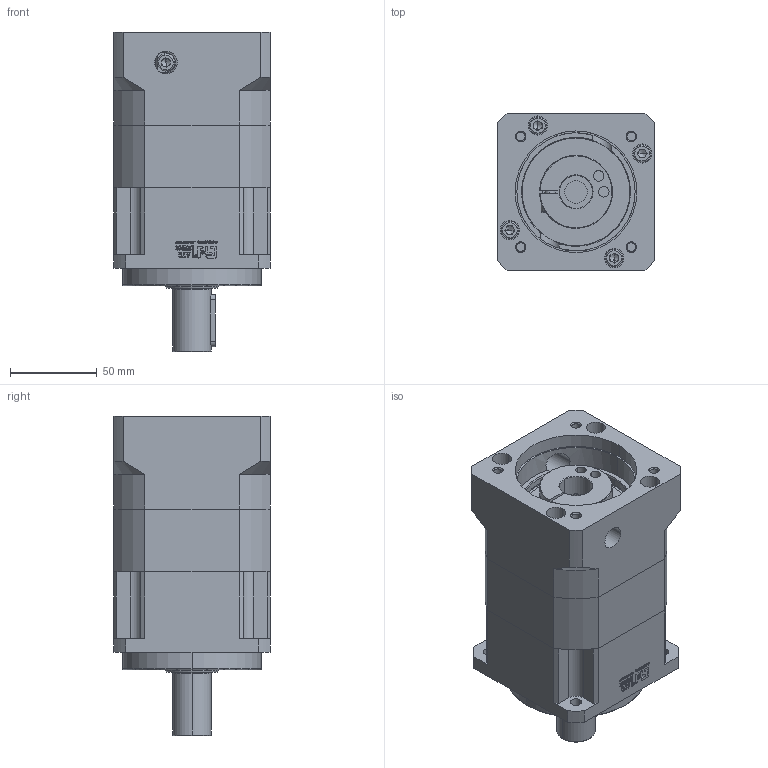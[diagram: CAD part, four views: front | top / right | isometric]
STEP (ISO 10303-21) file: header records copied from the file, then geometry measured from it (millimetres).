
FILE_DESCRIPTION (( 'STEP AP214' ), '1' );
FILE_NAME ('PGH090-L2-[ ]-P2 19-70-90-M6 bzsc22.STEP', '2024-05-29T06:17:44', ( '' ), ( '' ), 'SwSTEP 2.0', 'SolidWorks 2021', '' );
FILE_SCHEMA (( 'AUTOMOTIVE_DESIGN' ));
Length unit declared in the file: millimetre
Products named in the file (1): PGH090-L2-[ ]-P2 19-70-90-M6 bzsc22
Bounding box: 90 x 90 x 184 mm (x, y, z)
Volume: 800356.9 mm3; surface area: 154910.5 mm2
Topology: 10 solids, 10 shells, 1299 faces, 3396 edges, 2228 vertices
Faces by surface type: plane 698, bspline 306, cylinder 213, cone 61, torus 21
Entity records: 55426 total; most frequent: CARTESIAN_POINT 23877, ORIENTED_EDGE 6768, DIRECTION 5278, EDGE_CURVE 3384, VERTEX_POINT 2228, VECTOR 2178, LINE 2178, AXIS2_PLACEMENT_3D 1550
